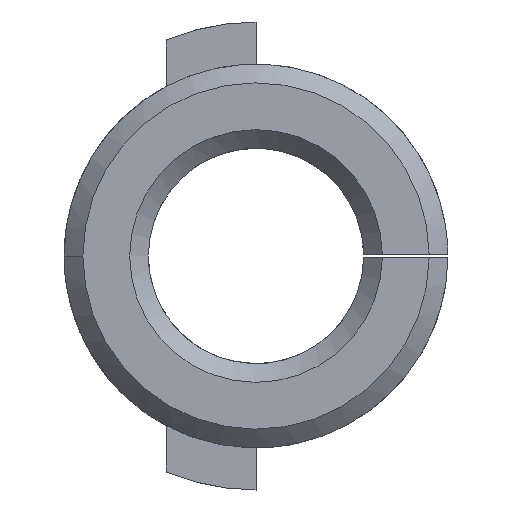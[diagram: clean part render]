
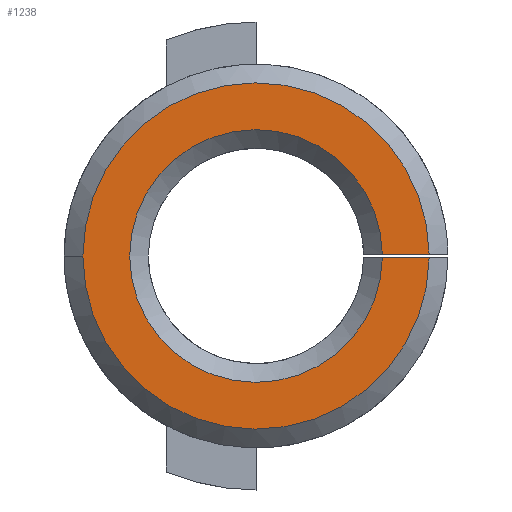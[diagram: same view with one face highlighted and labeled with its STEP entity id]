
A CAD part, front view. The second image highlights one B-rep face of the part: STEP entity #1238.
In plain terms, the highlighted planar face has unit normal (0, -1, 0).
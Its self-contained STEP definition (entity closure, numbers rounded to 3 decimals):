
#74 = EDGE_CURVE ( 'NONE', #1224, #1689, #1232, .T. ) ;
#75 = DIRECTION ( 'NONE',  ( -1., 0., 0. ) ) ;
#156 = VERTEX_POINT ( 'NONE', #233 ) ;
#233 = CARTESIAN_POINT ( 'NONE',  ( -9.25, 0., 0. ) ) ;
#251 = CARTESIAN_POINT ( 'NONE',  ( 0., 0., 0. ) ) ;
#263 = CIRCLE ( 'NONE', #1026, 9.25 ) ;
#320 = CARTESIAN_POINT ( 'NONE',  ( 9.25, 0., -0.1 ) ) ;
#372 = VERTEX_POINT ( 'NONE', #789 ) ;
#378 = CARTESIAN_POINT ( 'NONE',  ( 3.155, 0., -0.1 ) ) ;
#464 = ORIENTED_EDGE ( 'NONE', *, *, #74, .T. ) ;
#475 = VERTEX_POINT ( 'NONE', #1662 ) ;
#528 = AXIS2_PLACEMENT_3D ( 'NONE', #1326, #1479, #1345 ) ;
#705 = CARTESIAN_POINT ( 'NONE',  ( 6.749, 0., -0.1 ) ) ;
#710 = CARTESIAN_POINT ( 'NONE',  ( 11.451, 0., 0.1 ) ) ;
#789 = CARTESIAN_POINT ( 'NONE',  ( 6.749, 0., 0.1 ) ) ;
#796 = PLANE ( 'NONE',  #528 ) ;
#798 = DIRECTION ( 'NONE',  ( 1., 0., 0. ) ) ;
#814 = EDGE_CURVE ( 'NONE', #156, #1224, #263, .T. ) ;
#816 = AXIS2_PLACEMENT_3D ( 'NONE', #974, #1264, #859 ) ;
#859 = DIRECTION ( 'NONE',  ( 1., 0., 0. ) ) ;
#866 = EDGE_CURVE ( 'NONE', #475, #156, #1145, .T. ) ;
#872 = VECTOR ( 'NONE', #75, 1000. ) ;
#967 = DIRECTION ( 'NONE',  ( 1., 0., 0. ) ) ;
#974 = CARTESIAN_POINT ( 'NONE',  ( 0., 0., 0. ) ) ;
#1026 = AXIS2_PLACEMENT_3D ( 'NONE', #1602, #1741, #798 ) ;
#1143 = CIRCLE ( 'NONE', #1581, 6.75 ) ;
#1145 = CIRCLE ( 'NONE', #816, 9.25 ) ;
#1214 = ORIENTED_EDGE ( 'NONE', *, *, #814, .T. ) ;
#1224 = VERTEX_POINT ( 'NONE', #320 ) ;
#1232 = LINE ( 'NONE', #378, #872 ) ;
#1238 = ADVANCED_FACE ( 'NONE', ( #1506 ), #796, .T. ) ;
#1264 = DIRECTION ( 'NONE',  ( 0., -1., 0. ) ) ;
#1280 = ORIENTED_EDGE ( 'NONE', *, *, #866, .T. ) ;
#1326 = CARTESIAN_POINT ( 'NONE',  ( 0., 0., 0. ) ) ;
#1345 = DIRECTION ( 'NONE',  ( 1., 0., 0. ) ) ;
#1386 = EDGE_CURVE ( 'NONE', #1689, #372, #1143, .T. ) ;
#1389 = DIRECTION ( 'NONE',  ( 1., 0., 0. ) ) ;
#1392 = EDGE_LOOP ( 'NONE', ( #464, #1633, #1572, #1280, #1214 ) ) ;
#1437 = LINE ( 'NONE', #710, #1723 ) ;
#1479 = DIRECTION ( 'NONE',  ( 0., -1., 0. ) ) ;
#1492 = DIRECTION ( 'NONE',  ( 0., 1., 0. ) ) ;
#1506 = FACE_OUTER_BOUND ( 'NONE', #1392, .T. ) ;
#1572 = ORIENTED_EDGE ( 'NONE', *, *, #1629, .T. ) ;
#1581 = AXIS2_PLACEMENT_3D ( 'NONE', #251, #1492, #967 ) ;
#1602 = CARTESIAN_POINT ( 'NONE',  ( 0., 0., 0. ) ) ;
#1629 = EDGE_CURVE ( 'NONE', #372, #475, #1437, .T. ) ;
#1633 = ORIENTED_EDGE ( 'NONE', *, *, #1386, .T. ) ;
#1662 = CARTESIAN_POINT ( 'NONE',  ( 9.25, 0., 0.1 ) ) ;
#1689 = VERTEX_POINT ( 'NONE', #705 ) ;
#1723 = VECTOR ( 'NONE', #1389, 1000. ) ;
#1741 = DIRECTION ( 'NONE',  ( 0., -1., 0. ) ) ;
